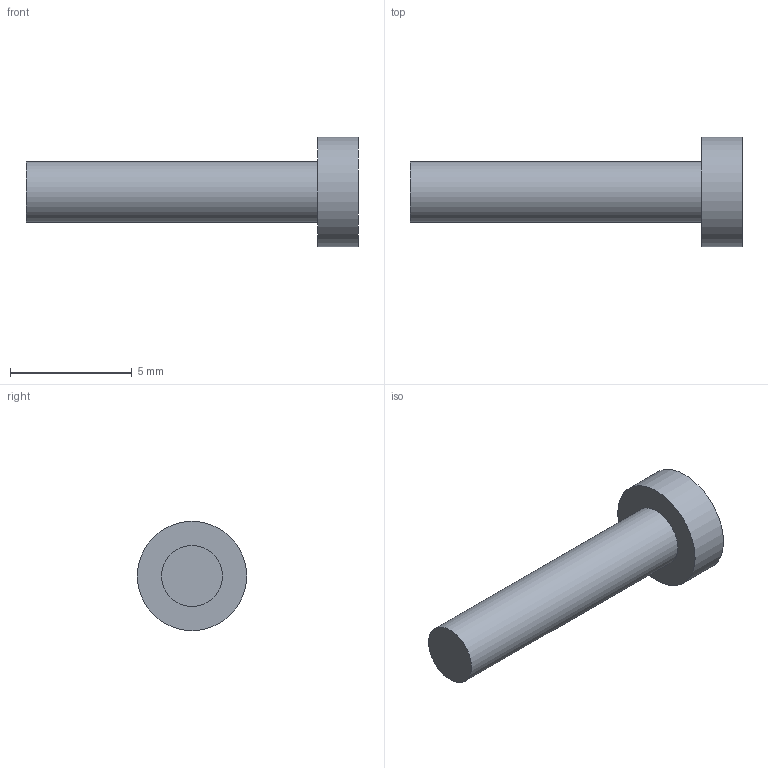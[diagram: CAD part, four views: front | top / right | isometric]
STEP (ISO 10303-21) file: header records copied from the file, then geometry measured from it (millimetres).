
FILE_DESCRIPTION(('Open CASCADE Model'),'2;1');
FILE_NAME('opposite-fsr-pcb-mount-screw-m2p5-x-12.step', '2026-11-14T16:52:09',('Author'),('Open CASCADE'), 'Open CASCADE STEP processor 8.0','Open CASCADE 8.0','Unknown');
FILE_SCHEMA(('AP242_MANAGED_MODEL_BASED_3D_ENGINEERING_MIM_LF {1 0 10303 442 1 1 4 }' ));
Length unit declared in the file: millimetre
Products named in the file (1): Opposite FSR PCB Mount Screw M2.5 x 12
Bounding box: 13.65 x 4.5 x 4.5 mm (x, y, z)
Volume: 85.1 mm3; surface area: 149.4 mm2
Topology: 1 solids, 1 shells, 5 faces, 6 edges, 4 vertices
Faces by surface type: plane 3, cylinder 2
Full cylindrical faces by diameter (mm): 2.5 x1, 4.5 x1
Entity records: 201 total; most frequent: DIRECTION 34, CARTESIAN_POINT 28, ORIENTED_EDGE 12, PCURVE 12, DEFINITIONAL_REPRESENTATION 12, AXIS2_PLACEMENT_3D 10, LINE 10, VECTOR 10
